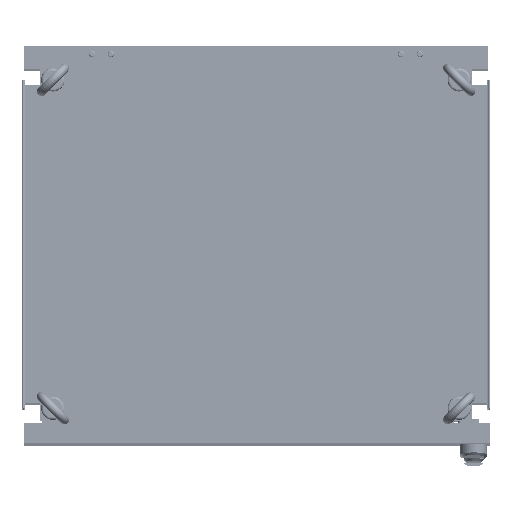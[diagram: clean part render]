
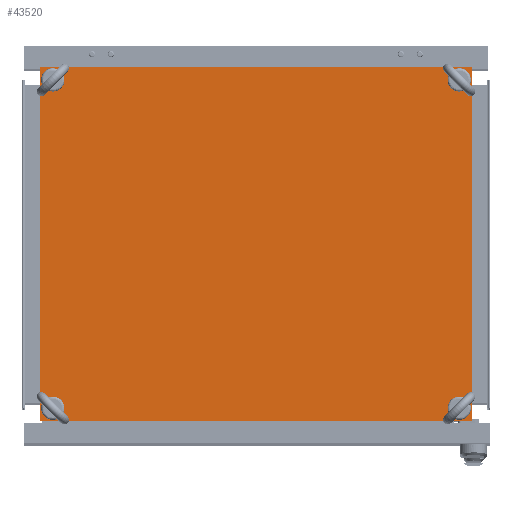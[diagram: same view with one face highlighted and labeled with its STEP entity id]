
A CAD part, top view. The second image highlights one B-rep face of the part: STEP entity #43520.
In plain terms, the highlighted planar face has unit normal (0, 0, 1).
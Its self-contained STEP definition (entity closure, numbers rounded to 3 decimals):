
#67=VERTEX_LOOP('',#30800);
#68=VERTEX_LOOP('',#30801);
#69=VERTEX_LOOP('',#30802);
#70=VERTEX_LOOP('',#30803);
#5156=LINE('',#69825,#9668);
#5157=LINE('',#69828,#9669);
#5158=LINE('',#69830,#9670);
#5159=LINE('',#69832,#9671);
#9668=VECTOR('',#57435,1000.);
#9669=VECTOR('',#57436,1000.);
#9670=VECTOR('',#57437,1000.);
#9671=VECTOR('',#57438,1000.);
#18997=ORIENTED_EDGE('',*,*,#26304,.F.);
#18998=ORIENTED_EDGE('',*,*,#26305,.F.);
#18999=ORIENTED_EDGE('',*,*,#26306,.F.);
#19000=ORIENTED_EDGE('',*,*,#26307,.F.);
#19001=ORIENTED_EDGE('',*,*,#26308,.F.);
#19002=ORIENTED_EDGE('',*,*,#26309,.F.);
#19003=ORIENTED_EDGE('',*,*,#26310,.F.);
#19004=ORIENTED_EDGE('',*,*,#26311,.F.);
#26304=EDGE_CURVE('',#30796,#30796,#32523,.T.);
#26305=EDGE_CURVE('',#30797,#30797,#32524,.T.);
#26306=EDGE_CURVE('',#30798,#30798,#32525,.T.);
#26307=EDGE_CURVE('',#30799,#30799,#32526,.T.);
#26308=EDGE_CURVE('',#30804,#30805,#5156,.T.);
#26309=EDGE_CURVE('',#30806,#30804,#5157,.T.);
#26310=EDGE_CURVE('',#30807,#30806,#5158,.T.);
#26311=EDGE_CURVE('',#30805,#30807,#5159,.T.);
#30796=VERTEX_POINT('',#69814);
#30797=VERTEX_POINT('',#69816);
#30798=VERTEX_POINT('',#69818);
#30799=VERTEX_POINT('',#69820);
#30800=VERTEX_POINT('',#69821);
#30801=VERTEX_POINT('',#69822);
#30802=VERTEX_POINT('',#69823);
#30803=VERTEX_POINT('',#69824);
#30804=VERTEX_POINT('',#69826);
#30805=VERTEX_POINT('',#69827);
#30806=VERTEX_POINT('',#69829);
#30807=VERTEX_POINT('',#69831);
#32523=CIRCLE('',#48198,6.5);
#32524=CIRCLE('',#48199,6.5);
#32525=CIRCLE('',#48200,6.5);
#32526=CIRCLE('',#48201,6.5);
#35616=EDGE_LOOP('',(#18997));
#35617=EDGE_LOOP('',(#18998));
#35618=EDGE_LOOP('',(#18999));
#35619=EDGE_LOOP('',(#19000));
#35620=EDGE_LOOP('',(#19001,#19002,#19003,#19004));
#39312=FACE_BOUND('',#35616,.T.);
#39313=FACE_BOUND('',#35617,.T.);
#39314=FACE_BOUND('',#35618,.T.);
#39315=FACE_BOUND('',#35619,.T.);
#39316=FACE_BOUND('',#67,.T.);
#39317=FACE_BOUND('',#68,.T.);
#39318=FACE_BOUND('',#69,.T.);
#39319=FACE_BOUND('',#70,.T.);
#39320=FACE_BOUND('',#35620,.T.);
#41610=PLANE('',#48197);
#43520=ADVANCED_FACE('',(#39312,#39313,#39314,#39315,#39316,#39317,#39318,
#39319,#39320),#41610,.F.);
#48197=AXIS2_PLACEMENT_3D('',#69812,#57425,#57426);
#48198=AXIS2_PLACEMENT_3D('',#69813,#57427,#57428);
#48199=AXIS2_PLACEMENT_3D('',#69815,#57429,#57430);
#48200=AXIS2_PLACEMENT_3D('',#69817,#57431,#57432);
#48201=AXIS2_PLACEMENT_3D('',#69819,#57433,#57434);
#57425=DIRECTION('',(0.,0.,-1.));
#57426=DIRECTION('',(-1.,0.,0.));
#57427=DIRECTION('',(0.,0.,1.));
#57428=DIRECTION('',(1.,0.,0.));
#57429=DIRECTION('',(0.,0.,1.));
#57430=DIRECTION('',(1.,0.,0.));
#57431=DIRECTION('',(0.,0.,1.));
#57432=DIRECTION('',(1.,0.,0.));
#57433=DIRECTION('',(0.,0.,1.));
#57434=DIRECTION('',(1.,0.,0.));
#57435=DIRECTION('',(0.,1.,0.));
#57436=DIRECTION('',(-1.,0.,0.));
#57437=DIRECTION('',(0.,-1.,0.));
#57438=DIRECTION('',(1.,0.,0.));
#69812=CARTESIAN_POINT('',(0.,0.,0.));
#69813=CARTESIAN_POINT('',(260.5,210.5,0.));
#69814=CARTESIAN_POINT('',(267.,210.5,0.));
#69815=CARTESIAN_POINT('',(-260.5,210.5,0.));
#69816=CARTESIAN_POINT('',(-254.,210.5,0.));
#69817=CARTESIAN_POINT('',(260.5,-210.5,0.));
#69818=CARTESIAN_POINT('',(267.,-210.5,0.));
#69819=CARTESIAN_POINT('',(-260.5,-210.5,0.));
#69820=CARTESIAN_POINT('',(-254.,-210.5,0.));
#69821=CARTESIAN_POINT('',(-274.2,-224.201,0.));
#69822=CARTESIAN_POINT('',(274.2,224.201,0.));
#69823=CARTESIAN_POINT('',(274.201,-224.201,0.));
#69824=CARTESIAN_POINT('',(-274.201,224.201,0.));
#69825=CARTESIAN_POINT('',(-277.,-227.,0.));
#69826=CARTESIAN_POINT('',(-277.,-227.,0.));
#69827=CARTESIAN_POINT('',(-277.,227.,0.));
#69828=CARTESIAN_POINT('',(277.,-227.,0.));
#69829=CARTESIAN_POINT('',(277.,-227.,0.));
#69830=CARTESIAN_POINT('',(277.,227.,0.));
#69831=CARTESIAN_POINT('',(277.,227.,0.));
#69832=CARTESIAN_POINT('',(-277.,227.,0.));
